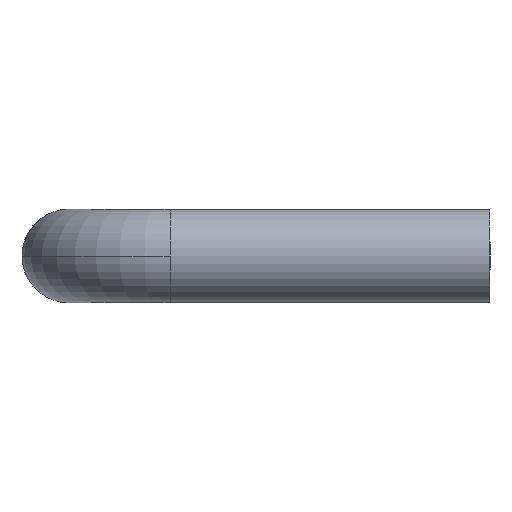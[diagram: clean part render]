
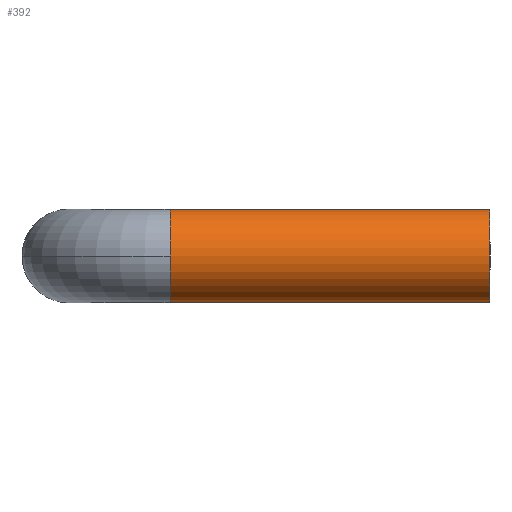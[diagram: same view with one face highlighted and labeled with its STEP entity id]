
A CAD part, left-side view. The second image highlights one B-rep face of the part: STEP entity #392.
In plain terms, the highlighted cylindrical face has radius 3 mm (diameter 6 mm), a partial arc.
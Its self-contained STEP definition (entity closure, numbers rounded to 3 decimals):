
#2 = DIRECTION ( 'NONE',  ( 0., 1., 0. ) ) ;
#4 = DIRECTION ( 'NONE',  ( -1., 0., 0. ) ) ;
#6 = CARTESIAN_POINT ( 'NONE',  ( -40., -6.5, 0. ) ) ;
#7 = CARTESIAN_POINT ( 'NONE',  ( -40., -6.5, 0. ) ) ;
#18 = DIRECTION ( 'NONE',  ( 0., 1., 0. ) ) ;
#23 = CARTESIAN_POINT ( 'NONE',  ( -40., -27., 0. ) ) ;
#24 = CARTESIAN_POINT ( 'NONE',  ( -40., -27., -3. ) ) ;
#30 = DIRECTION ( 'NONE',  ( -1., 0., 0. ) ) ;
#31 = DIRECTION ( 'NONE',  ( 0., 1., 0. ) ) ;
#38 = CARTESIAN_POINT ( 'NONE',  ( -40., -6.5, -3. ) ) ;
#45 = CARTESIAN_POINT ( 'NONE',  ( -40., -27., 3. ) ) ;
#48 = DIRECTION ( 'NONE',  ( -1., 0., 0. ) ) ;
#57 = CARTESIAN_POINT ( 'NONE',  ( -40., -6.5, 3. ) ) ;
#70 = EDGE_CURVE ( 'NONE', #251, #263, #267, .T. ) ;
#77 = EDGE_CURVE ( 'NONE', #243, #244, #276, .T. ) ;
#78 = EDGE_CURVE ( 'NONE', #263, #248, #274, .T. ) ;
#86 = AXIS2_PLACEMENT_3D ( 'NONE', #6, #31, #30 ) ;
#91 = AXIS2_PLACEMENT_3D ( 'NONE', #23, #18, #4 ) ;
#92 = AXIS2_PLACEMENT_3D ( 'NONE', #7, #2, #48 ) ;
#127 = AXIS2_PLACEMENT_3D ( 'NONE', #503, #504, #501 ) ;
#145 = EDGE_LOOP ( 'NONE', ( #216, #217, #218, #219, #220 ) ) ;
#216 = ORIENTED_EDGE ( 'NONE', *, *, #361, .F. ) ;
#217 = ORIENTED_EDGE ( 'NONE', *, *, #78, .F. ) ;
#218 = ORIENTED_EDGE ( 'NONE', *, *, #70, .F. ) ;
#219 = ORIENTED_EDGE ( 'NONE', *, *, #359, .T. ) ;
#220 = ORIENTED_EDGE ( 'NONE', *, *, #77, .T. ) ;
#243 = VERTEX_POINT ( 'NONE', #24 ) ;
#244 = VERTEX_POINT ( 'NONE', #45 ) ;
#248 = VERTEX_POINT ( 'NONE', #57 ) ;
#251 = VERTEX_POINT ( 'NONE', #38 ) ;
#263 = VERTEX_POINT ( 'NONE', #402 ) ;
#267 = CIRCLE ( 'NONE', #86, 3. ) ;
#274 = CIRCLE ( 'NONE', #92, 3. ) ;
#276 = CIRCLE ( 'NONE', #91, 3. ) ;
#287 = LINE ( 'NONE', #415, #292 ) ;
#290 = LINE ( 'NONE', #422, #295 ) ;
#292 = VECTOR ( 'NONE', #410, 1000. ) ;
#295 = VECTOR ( 'NONE', #416, 1000. ) ;
#340 = FACE_OUTER_BOUND ( 'NONE', #145, .T. ) ;
#342 = CYLINDRICAL_SURFACE ( 'NONE', #127, 3. ) ;
#359 = EDGE_CURVE ( 'NONE', #251, #243, #287, .T. ) ;
#361 = EDGE_CURVE ( 'NONE', #248, #244, #290, .T. ) ;
#392 = ADVANCED_FACE ( 'NONE', ( #340 ), #342, .T. ) ;
#402 = CARTESIAN_POINT ( 'NONE',  ( -43., -6.5, 0. ) ) ;
#410 = DIRECTION ( 'NONE',  ( 0., -1., 0. ) ) ;
#415 = CARTESIAN_POINT ( 'NONE',  ( -40., -6.5, -3. ) ) ;
#416 = DIRECTION ( 'NONE',  ( 0., -1., 0. ) ) ;
#422 = CARTESIAN_POINT ( 'NONE',  ( -40., -6.5, 3. ) ) ;
#501 = DIRECTION ( 'NONE',  ( 0., 0., -1. ) ) ;
#503 = CARTESIAN_POINT ( 'NONE',  ( -40., -6.5, 0. ) ) ;
#504 = DIRECTION ( 'NONE',  ( 0., -1., 0. ) ) ;
